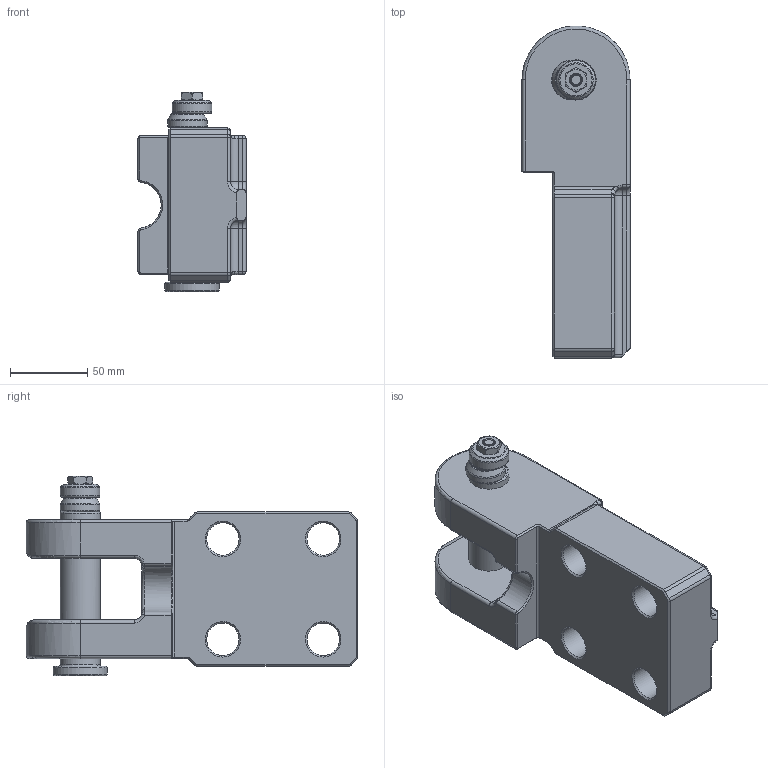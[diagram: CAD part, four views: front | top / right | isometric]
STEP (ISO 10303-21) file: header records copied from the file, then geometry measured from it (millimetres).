
FILE_DESCRIPTION(/* description */ (''),/* implementation_level */ '2;1');
FILE_NAME(/* name */ '2133.12.026.stp',/* time_stamp */ '2023-09-04T18:05:32+08:00',/* author */ (''),/* organization */ (''),/* preprocessor_version */ 'ST-DEVELOPER v16',/* originating_system */ 'SIEMENS PLM Software NX 10.0',/* authorisation */ '');
FILE_SCHEMA (('CONFIG_CONTROL_DESIGN'));
Products named in the file (1): 2133.12.026.prt_model
Bounding box: 70 x 215 x 129 mm (x, y, z)
Volume: 844128.6 mm3; surface area: 101707.5 mm2
Topology: 5 solids, 5 shells, 891 faces, 4498 edges, 3680 vertices
Faces by surface type: bspline 391, plane 332, cylinder 99, torus 32, cone 31, sphere 6
Full cylindrical faces by diameter (mm): 9 x1, 19 x1, 21 x4, 25.6 x2, 26 x3, 35 x1
Entity records: 55953 total; most frequent: CARTESIAN_POINT 30485, ORIENTED_EDGE 8898, EDGE_CURVE 4449, VERTEX_POINT 3680, B_SPLINE_CURVE_WITH_KNOTS 3409, EDGE_LOOP 1021, DIRECTION 1002, ADVANCED_FACE 891
